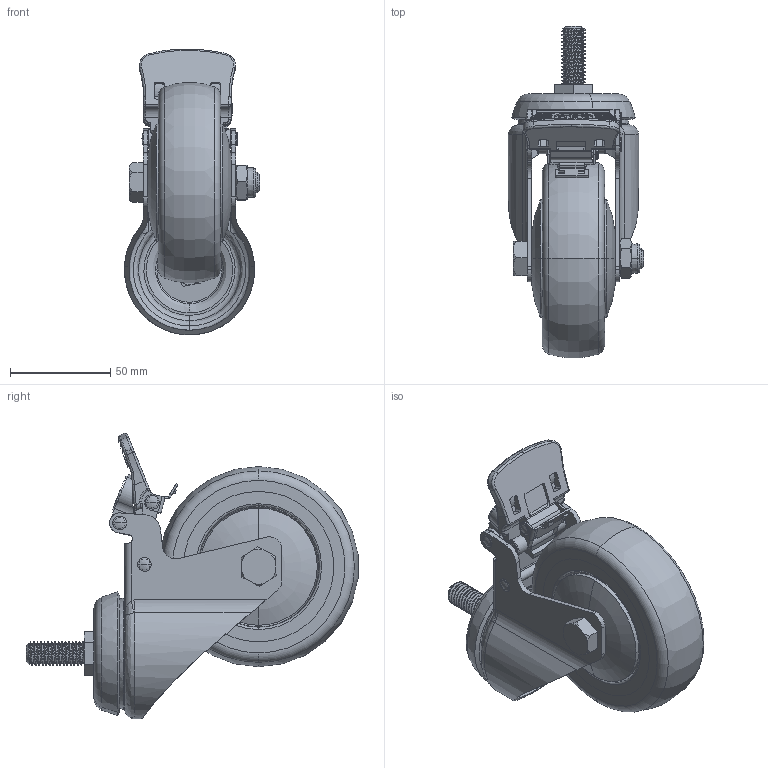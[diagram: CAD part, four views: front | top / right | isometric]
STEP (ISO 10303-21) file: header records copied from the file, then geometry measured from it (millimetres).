
FILE_DESCRIPTION (( 'STEP AP203' ), '1' );
FILE_NAME ('11290400266683.STEP', '2025-06-03T07:41:30', ( '20241006' ), ( '' ), 'SwSTEP 2.0', 'SolidWorks 2021', '' );
FILE_SCHEMA (( 'CONFIG_CONTROL_DESIGN' ));
Length unit declared in the file: millimetre
Products named in the file (12): 复件 (2) ^4''''医疗尼龙双煞架（外观图）.STEP; 4''''PPR謫等粣創(俋夤芞); ^4''''ﾒｽﾁﾆﾄ眞撝ｫﾉｷｼﾜ｣ｨﾍ篁ﾛﾍｼ｣ｩ.STEP; M12x29勤晚19佪諶4 5渡; ____M10__A_O^4''''ﾒｽﾁﾆﾄ眞撝ｫﾉｷｼﾜ｣ｨﾍ篁ﾛﾍｼ｣ｩ.STEP; 复件 (5) ^4''''医疗尼龙双煞架（外观图）.STEP; 复件 (3) ^4''''医疗尼龙双煞架（外观图）.STEP; 11290400266683; 复件 (4) ^4''''医疗尼龙双煞架（外观图）.STEP; 45寸醫療大波盤（外观图）_預設; 复件 (6) ^4''''医疗尼龙双煞架（外观图）.STEP; ____20__A_O^4''''ﾒｽﾁﾆﾄ眞撝ｫﾉｷｼﾜ｣ｨﾍ篁ﾛﾍｼ｣ｩ.STEP
Assembly tree (13 placements, depth 2):
  11290400266683
    复件 (3) ^4''''医疗尼龙双煞架（外观图）.STEP
    ^4''''ﾒｽﾁﾆﾄ眞撝ｫﾉｷｼﾜ｣ｨﾍ篁ﾛﾍｼ｣ｩ.STEP  x2
    复件 (2) ^4''''医疗尼龙双煞架（外观图）.STEP  x2
    复件 (5) ^4''''医疗尼龙双煞架（外观图）.STEP
    复件 (4) ^4''''医疗尼龙双煞架（外观图）.STEP
    复件 (6) ^4''''医疗尼龙双煞架（外观图）.STEP
    ____20__A_O^4''''ﾒｽﾁﾆﾄ眞撝ｫﾉｷｼﾜ｣ｨﾍ篁ﾛﾍｼ｣ｩ.STEP
    ____M10__A_O^4''''ﾒｽﾁﾆﾄ眞撝ｫﾉｷｼﾜ｣ｨﾍ篁ﾛﾍｼ｣ｩ.STEP
    M12x29勤晚19佪諶4 5渡
    45寸醫療大波盤（外观图）_預設
    4''''PPR謫等粣創(俋夤芞)
Bounding box: 67.5 x 165.54 x 142.47 mm (x, y, z)
Volume: 299333.1 mm3; surface area: 96059 mm2
Topology: 13 solids, 13 shells, 786 faces, 2069 edges, 1318 vertices
Faces by surface type: plane 319, cylinder 229, bspline 147, cone 58, torus 33
Entity records: 39364 total; most frequent: CARTESIAN_POINT 20867, ORIENTED_EDGE 3966, DIRECTION 3031, EDGE_CURVE 1983, VERTEX_POINT 1274, AXIS2_PLACEMENT_3D 1030, VECTOR 971, LINE 971
